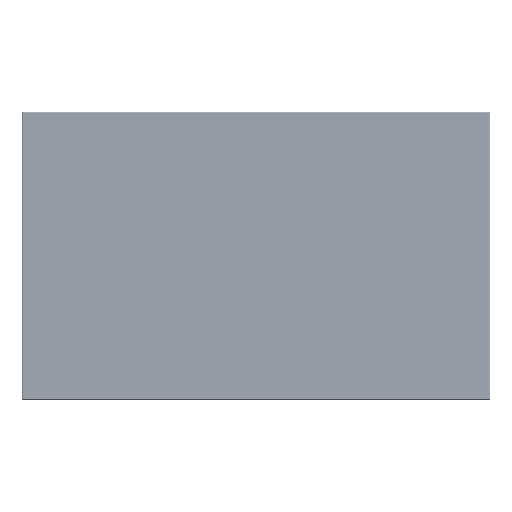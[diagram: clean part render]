
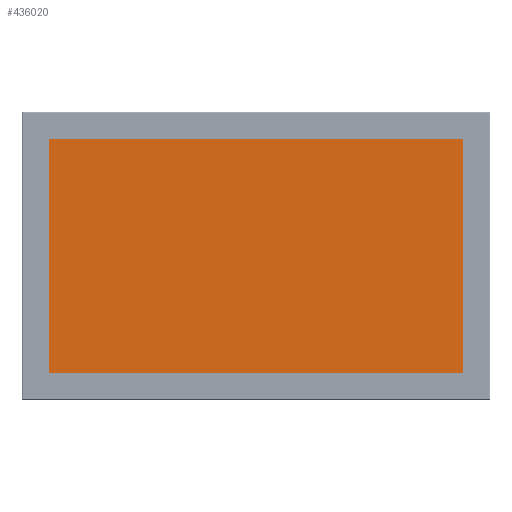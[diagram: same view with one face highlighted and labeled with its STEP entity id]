
A CAD part, top view. The second image highlights one B-rep face of the part: STEP entity #436020.
In plain terms, the highlighted planar face has unit normal (0, 0, 1).
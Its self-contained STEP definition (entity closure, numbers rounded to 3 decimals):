
#26100 = CARTESIAN_POINT ( 'NONE',  ( 205.08, 115.62, 0. ) ) ;
#27234 = DIRECTION ( 'NONE',  ( 0., -1., 0. ) ) ;
#76484 = CARTESIAN_POINT ( 'NONE',  ( -205.08, -115.62, 0. ) ) ;
#84991 = VERTEX_POINT ( 'NONE', #76484 ) ;
#117509 = ORIENTED_EDGE ( 'NONE', *, *, #201444, .T. ) ;
#139445 = ORIENTED_EDGE ( 'NONE', *, *, #287919, .T. ) ;
#189128 = EDGE_LOOP ( 'NONE', ( #477194, #139445, #665050, #117509 ) ) ;
#200774 = LINE ( 'NONE', #269445, #218422 ) ;
#201444 = EDGE_CURVE ( 'NONE', #451785, #385217, #200774, .T. ) ;
#203318 = DIRECTION ( 'NONE',  ( -1., 0., 0. ) ) ;
#218422 = VECTOR ( 'NONE', #203318, 1000. ) ;
#239559 = FACE_OUTER_BOUND ( 'NONE', #189128, .T. ) ;
#269445 = CARTESIAN_POINT ( 'NONE',  ( 205.08, 115.62, 0. ) ) ;
#279435 = PLANE ( 'NONE',  #697199 ) ;
#281799 = DIRECTION ( 'NONE',  ( 0., 0., 1. ) ) ;
#287919 = EDGE_CURVE ( 'NONE', #84991, #327478, #503539, .T. ) ;
#308297 = CARTESIAN_POINT ( 'NONE',  ( -205.08, -115.62, 0. ) ) ;
#310459 = DIRECTION ( 'NONE',  ( 0., 1., 0. ) ) ;
#327478 = VERTEX_POINT ( 'NONE', #504591 ) ;
#336452 = VECTOR ( 'NONE', #539207, 1000. ) ;
#385217 = VERTEX_POINT ( 'NONE', #679896 ) ;
#410168 = LINE ( 'NONE', #697863, #480847 ) ;
#416588 = EDGE_CURVE ( 'NONE', #327478, #451785, #580161, .T. ) ;
#436020 = ADVANCED_FACE ( 'NONE', ( #239559 ), #279435, .T. ) ;
#451785 = VERTEX_POINT ( 'NONE', #26100 ) ;
#477194 = ORIENTED_EDGE ( 'NONE', *, *, #614414, .T. ) ;
#480847 = VECTOR ( 'NONE', #27234, 1000. ) ;
#491818 = VECTOR ( 'NONE', #310459, 1000. ) ;
#503539 = LINE ( 'NONE', #308297, #336452 ) ;
#504591 = CARTESIAN_POINT ( 'NONE',  ( 205.08, -115.62, 0. ) ) ;
#539207 = DIRECTION ( 'NONE',  ( 1., 0., 0. ) ) ;
#562016 = CARTESIAN_POINT ( 'NONE',  ( 0., 0., 0. ) ) ;
#580161 = LINE ( 'NONE', #706131, #491818 ) ;
#614414 = EDGE_CURVE ( 'NONE', #385217, #84991, #410168, .T. ) ;
#665050 = ORIENTED_EDGE ( 'NONE', *, *, #416588, .T. ) ;
#675132 = DIRECTION ( 'NONE',  ( 1., 0., 0. ) ) ;
#679896 = CARTESIAN_POINT ( 'NONE',  ( -205.08, 115.62, 0. ) ) ;
#697199 = AXIS2_PLACEMENT_3D ( 'NONE', #562016, #281799, #675132 ) ;
#697863 = CARTESIAN_POINT ( 'NONE',  ( -205.08, 115.62, 0. ) ) ;
#706131 = CARTESIAN_POINT ( 'NONE',  ( 205.08, -115.62, 0. ) ) ;
